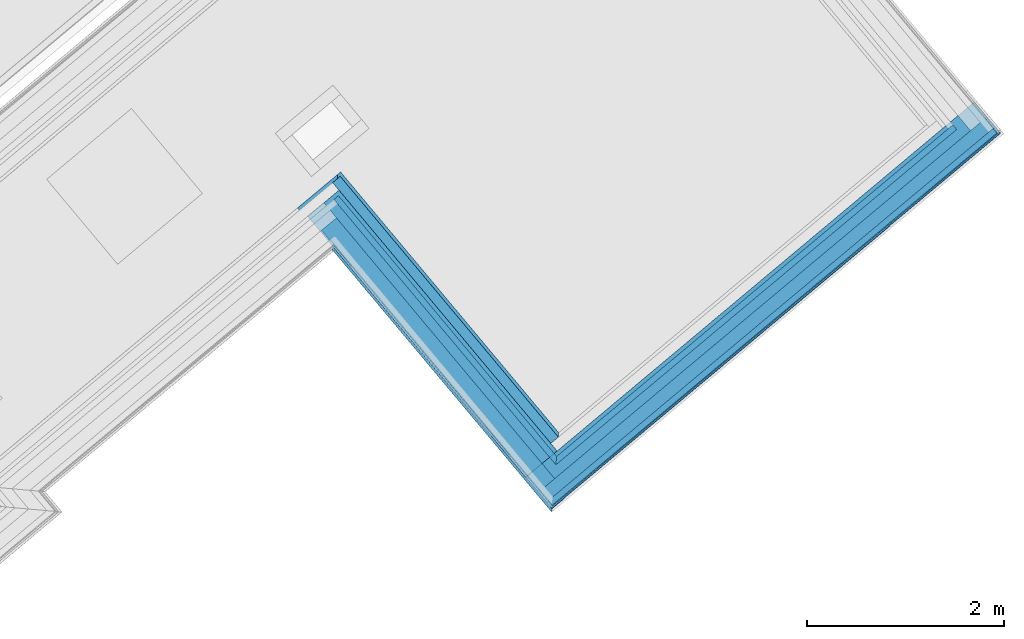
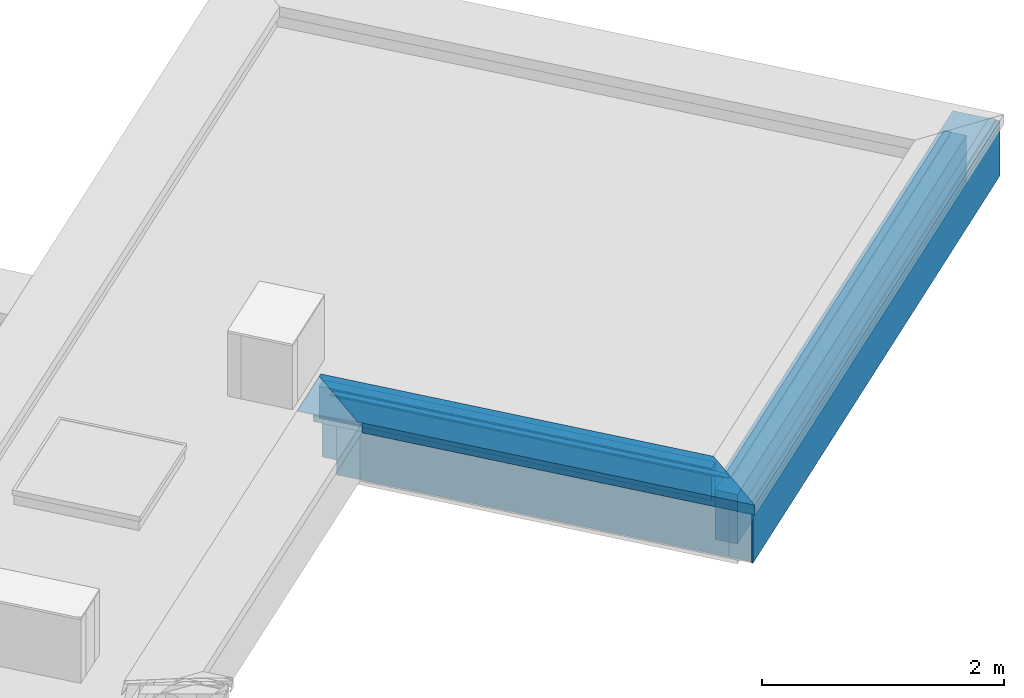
# One storey, part 8 of 15: 13 building element parts, 2 elements without a shape of their own.
"""IFC4 building model written with IfcOpenShell, lengths in metres."""

from ifc_helpers import new_model, entity, si_unit, converted_unit, derived_unit, direction, frame, origin_with_axes, place, context, subcontext, project, spatial, polygons, material, type_object, element, aggregate, save


model = new_model("IFC4")

# Units and contexts
model_context = context("Model", 3, precision=1e-05, world=origin_with_axes(), true_north=direction((0.0, 1.0)))
body_context = subcontext(model_context, "Body", "Model", "MODEL_VIEW")
ifc_project = project(units=[si_unit("LENGTHUNIT", "METRE"), si_unit("AREAUNIT", "SQUARE_METRE"), si_unit("VOLUMEUNIT", "CUBIC_METRE"), converted_unit("PLANEANGLEUNIT", "DEGREE", entity("IfcPlaneAngleMeasure", 0.0174532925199), si_unit("PLANEANGLEUNIT", "RADIAN"), dimensions=[0, 0, 0, 0, 0, 0, 0]), converted_unit("TIMEUNIT", "Year", entity("IfcTimeMeasure", 31556926.0), si_unit("TIMEUNIT", "SECOND"), dimensions=[0, 0, 1, 0, 0, 0, 0]), si_unit("MASSUNIT", "GRAM", prefix="KILO"), si_unit("THERMODYNAMICTEMPERATUREUNIT", "DEGREE_CELSIUS"), si_unit("LUMINOUSINTENSITYUNIT", "LUMEN"), si_unit("ENERGYUNIT", "JOULE", prefix="MEGA"), derived_unit("THERMALCONDUCTANCEUNIT", [(si_unit("POWERUNIT", "WATT"), 1), (si_unit("LENGTHUNIT", "METRE"), -1), (si_unit("THERMODYNAMICTEMPERATUREUNIT", "KELVIN"), -1)]), derived_unit("SPECIFICHEATCAPACITYUNIT", [(si_unit("ENERGYUNIT", "JOULE"), 1), (si_unit("MASSUNIT", "GRAM", prefix="KILO"), -1), (si_unit("THERMODYNAMICTEMPERATUREUNIT", "KELVIN"), -1)]), derived_unit("MASSDENSITYUNIT", [(si_unit("MASSUNIT", "GRAM", prefix="KILO"), 1), (si_unit("VOLUMEUNIT", "CUBIC_METRE"), -1)])], contexts=[model_context])

# Site, building, storey
site_placement = place(None, frame((-0.00153261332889, -0.00661245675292, 0.0), z_axis=(0.0, 0.0, 1.0), x_axis=(1.0, 0.0, 0.0)))
site = spatial("IfcSite", under=ifc_project, at=site_placement, Name="Site", CompositionType="ELEMENT")
building_placement = place(site_placement, origin_with_axes())
building = spatial("IfcBuilding", under=site, at=building_placement, Name="Building", CompositionType="ELEMENT")
storey_placement = place(building_placement, frame((0.0, 0.0, 11.84), z_axis=(0.0, 0.0, 1.0), x_axis=(1.0, 0.0, 0.0)))
storey = spatial("IfcBuildingStorey", under=building, at=storey_placement, Name="DA", CompositionType="ELEMENT", Elevation=11.84)

# Wall, building element parts
wall_type = type_object("IfcWallType", Name="Individuelles Profil 574 x 610", PredefinedType="NOTDEFINED")
wall_1_placement = place(storey_placement, frame((12.0618093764, 21.5422970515, 0.0), z_axis=(0.0, 0.0, 1.0), x_axis=(-0.766948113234, -0.641709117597, 0.0)))
wall_1 = element("IfcWall", 1, at=wall_1_placement, inside=storey, type_object=wall_type, Name="Wand-004", PredefinedType="NOTDEFINED")
ifc_material_1 = material(Name="Zementputz")
building_element_part_1_placement = place(wall_1_placement, origin_with_axes())
building_element_part_1 = element("IfcBuildingElementPart", 2, at=building_element_part_1_placement, material=ifc_material_1, Name="Zementputz", PredefinedType="NOTDEFINED", context=body_context, shape_type="Tessellation", body=[
    polygons([(-0.214859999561, 0.214999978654, 0.0), (-0.214859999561, 0.214999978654, 0.50000001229), (5.72873487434, 0.214999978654, 0.50000001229), (5.72873487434, 0.214999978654, 0.0), (-0.214869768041, 0.199999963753, 0.0), (-0.214869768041, 0.199999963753, 0.50000001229), (5.72873487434, 0.199999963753, 0.50000001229), (5.72873487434, 0.199999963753, 0.0)], [[[1, 2, 3, 4]], [[2, 1, 5, 6]], [[2, 6, 7, 3]], [[4, 3, 7, 8]], [[5, 1, 4, 8]], [[6, 5, 8, 7]]], closed=True),
])
ifc_material_2 = material(Name="Vollholz")
building_element_part_2_placement = place(wall_1_placement, origin_with_axes())
building_element_part_2 = element("IfcBuildingElementPart", 3, at=building_element_part_2_placement, material=ifc_material_2, Name="Vollholz", PredefinedType="NOTDEFINED", context=body_context, shape_type="Tessellation", body=[
    polygons([(-0.189911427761, 0.130124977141, 0.584015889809), (-0.189872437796, 0.189996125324, 0.584015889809), (-0.189915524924, 0.190039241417, 0.575979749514), (-0.189954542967, 0.130124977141, 0.575979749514), (-0.18986147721, 0.189984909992, 0.586106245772), (5.70371980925, 0.189984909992, 0.586106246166), (5.7037310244, 0.189996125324, 0.584015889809), (5.7037741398, 0.190039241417, 0.575979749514), (5.70378540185, 0.190050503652, 0.573880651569), (5.7038172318, 0.190082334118, 0.567947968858), (5.70385987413, 0.190124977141, 0.560000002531), (-0.190001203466, 0.190124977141, 0.560000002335), (-0.189958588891, 0.190082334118, 0.567947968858), (-0.189926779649, 0.190050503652, 0.573880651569), (-0.189965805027, 0.130124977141, 0.573880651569), (-0.189997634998, 0.130124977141, 0.567947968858), (-0.190040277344, 0.130124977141, 0.560000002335), (5.70385987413, 0.130124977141, 0.560000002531), (5.7038172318, 0.130124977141, 0.567947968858), (5.70378540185, 0.130124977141, 0.573880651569), (5.7037741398, 0.130124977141, 0.575979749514), (5.7037310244, 0.130124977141, 0.584015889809)], [[[1, 2, 3, 4]], [[5, 2, 1]], [[2, 5, 6, 7, 8, 9, 10, 11, 12, 13, 14, 3]], [[4, 3, 14, 15]], [[1, 4, 15, 16, 17, 18, 19, 20, 21, 22]], [[5, 1, 22, 6]], [[7, 6, 22]], [[7, 22, 21, 8]], [[8, 21, 20, 9]], [[9, 20, 19, 10]], [[10, 19, 18, 11]], [[17, 12, 11, 18]], [[16, 13, 12, 17]], [[15, 14, 13, 16]]], closed=True),
])
ifc_material_3 = material(Name="EPS 1")
building_element_part_3_placement = place(wall_1_placement, origin_with_axes())
building_element_part_3 = element("IfcBuildingElementPart", 4, at=building_element_part_3_placement, material=ifc_material_3, Name="EPS 1", PredefinedType="NOTDEFINED", context=body_context, shape_type="Tessellation", body=[
    polygons([(-0.19986975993, 0.19999996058, 0.498822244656), (-0.19986975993, 0.19999996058, 0.5), (5.71373486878, 0.19999996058, 0.5), (5.71373486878, 0.19999996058, 0.498822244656), (5.71373486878, 0.19999996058, 0.491006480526), (5.71373486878, 0.19999996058, 0.488695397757), (5.71373486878, 0.19999996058, 0.235000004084), (5.71373486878, 0.19999996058, 0.0), (-0.19986975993, 0.19999996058, 0.0), (-0.19986975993, 0.19999996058, 0.235000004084), (-0.19986975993, 0.19999996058, 0.488695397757), (-0.19986975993, 0.19999996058, 0.491006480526), (-0.200000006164, -2.16659046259e-09, 0.5), (-0.200000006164, -2.16659046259e-09, 0.498822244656), (5.71373486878, -2.16659046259e-09, 0.5), (5.71373486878, -2.16659046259e-09, 0.498822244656), (5.71373486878, -2.16659046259e-09, 0.491006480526), (5.71373486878, -2.16659046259e-09, 0.488695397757), (5.71373486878, -2.16659046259e-09, 0.235000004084), (5.71373486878, -2.16659046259e-09, 0.0), (-0.200000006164, -2.16659046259e-09, 0.0), (-0.200000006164, -2.16659046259e-09, 0.235000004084), (-0.200000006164, -2.16659046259e-09, 0.488695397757), (-0.200000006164, -2.16659046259e-09, 0.491006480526)], [[[1, 2, 3, 4, 5, 6, 7, 8, 9, 10, 11, 12]], [[13, 2, 1, 14]], [[2, 13, 15, 3]], [[4, 3, 15, 16]], [[4, 16, 17, 5]], [[5, 17, 18, 6]], [[6, 18, 19, 7]], [[7, 19, 20, 8]], [[21, 9, 8, 20]], [[22, 10, 9, 21]], [[23, 11, 10, 22]], [[24, 12, 11, 23]], [[14, 1, 12, 24]], [[13, 14, 24, 23, 22, 21, 20, 19, 18, 17, 16, 15]]], closed=True),
])
ifc_material_4 = material(Name="Brettschichtholz")
building_element_part_4_placement = place(wall_1_placement, origin_with_axes())
building_element_part_4 = element("IfcBuildingElementPart", 5, at=building_element_part_4_placement, material=ifc_material_4, Name="Brettschichtholz", PredefinedType="NOTDEFINED", context=body_context, shape_type="Tessellation", body=[
    polygons([(-0.214860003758, 0.214999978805, 0.519224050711), (-0.214860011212, 0.214999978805, 0.559999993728), (5.72873487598, 0.214999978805, 0.559999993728), (5.72873487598, 0.214999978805, 0.519224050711), (5.72873487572, 0.214999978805, 0.51136132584), (5.72873487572, 0.214999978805, 0.509050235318), (5.72873487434, 0.214999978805, 0.50000001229), (-0.214859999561, 0.214999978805, 0.50000001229), (-0.214860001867, 0.214999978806, 0.509050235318), (-0.214860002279, 0.214999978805, 0.51136132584), (-0.214876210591, 0.190124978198, 0.559999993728), (-0.215130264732, -0.200000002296, 0.519224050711), (-0.215130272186, -0.200000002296, 0.559999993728), (-0.215104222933, -0.159999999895, 0.559999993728), (-0.215065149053, -0.0999999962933, 0.559999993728), (-0.214915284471, 0.130124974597, 0.559999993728), (5.72873487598, 0.190124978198, 0.559999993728), (5.72873487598, 0.130124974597, 0.559999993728), (5.72873487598, -0.0999999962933, 0.559999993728), (5.72873487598, -0.159999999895, 0.559999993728), (5.72873487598, -0.200000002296, 0.559999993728), (5.72873487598, -0.200000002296, 0.519224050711), (5.72873487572, -0.200000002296, 0.51136132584), (5.72873487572, -0.200000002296, 0.509050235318), (5.72873487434, -0.200000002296, 0.50000001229), (-0.215130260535, -0.200000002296, 0.50000001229), (-0.215130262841, -0.200000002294, 0.509050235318), (-0.215130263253, -0.200000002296, 0.51136132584)], [[[1, 2, 3, 4, 5, 6, 7, 8, 9, 10]], [[11, 2, 1, 12, 13, 14, 15, 16]], [[2, 11, 17, 3]], [[4, 3, 17, 18, 19, 20, 21, 22]], [[4, 22, 23, 5]], [[5, 23, 24, 6]], [[6, 24, 25, 7]], [[25, 26, 8, 7]], [[27, 9, 8, 26]], [[28, 10, 9, 27]], [[12, 1, 10, 28]], [[13, 12, 28, 27, 26, 25, 24, 23, 22, 21]], [[14, 13, 21, 20]], [[15, 14, 20, 19]], [[16, 15, 19, 18]], [[11, 16, 18, 17]]], closed=True),
])
ifc_material_5 = material(Name="Stahlbeton Wand Garage")
building_element_part_5_placement = place(wall_1_placement, origin_with_axes())
building_element_part_5 = element("IfcBuildingElementPart", 6, at=building_element_part_5_placement, material=ifc_material_5, Name="Stahlbeton Wand Garage", PredefinedType="NOTDEFINED", context=body_context, shape_type="Tessellation", body=[
    polygons([(2.16659046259e-09, 0.0, 0.498822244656), (2.16658690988e-09, 0.0, 0.5), (5.51373490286, 0.0, 0.5), (5.51373490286, 0.0, 0.498822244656), (5.51373490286, 0.0, 0.491006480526), (5.51373490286, 0.0, 0.488695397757), (5.51373490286, 0.0, 0.235000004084), (5.51373490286, 0.0, 0.0), (2.16659046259e-09, 0.0, 0.0), (2.16659046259e-09, 0.0, 0.235000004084), (2.16659046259e-09, 0.0, 0.488695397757), (2.16659046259e-09, 0.0, 0.491006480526), (-0.000130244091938, -0.2, 0.5), (-0.000130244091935, -0.2, 0.498822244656), (5.51373490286, -0.2, 0.5), (5.51373490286, -0.2, 0.498822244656), (5.51373490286, -0.2, 0.491006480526), (5.51373490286, -0.2, 0.488695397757), (5.51373490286, -0.200000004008, 0.235000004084), (5.51373490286, -0.2, 0.0), (-0.000130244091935, -0.2, 0.0), (-0.000130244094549, -0.200000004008, 0.235000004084), (-0.000130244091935, -0.2, 0.488695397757), (-0.000130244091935, -0.2, 0.491006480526)], [[[1, 2, 3, 4, 5, 6, 7, 8, 9, 10, 11, 12]], [[13, 2, 1, 14]], [[2, 13, 15, 3]], [[4, 3, 15, 16]], [[4, 16, 17, 5]], [[5, 17, 18, 6]], [[6, 18, 19, 7]], [[7, 19, 20, 8]], [[21, 9, 8, 20]], [[22, 10, 9, 21]], [[23, 11, 10, 22]], [[24, 12, 11, 23]], [[14, 1, 12, 24]], [[13, 14, 24, 23, 22, 19, 18, 17, 16, 15]], [[22, 21, 20, 19]]], closed=True),
])
building_element_part_6_placement = place(wall_1_placement, origin_with_axes())
building_element_part_6 = element("IfcBuildingElementPart", 7, at=building_element_part_6_placement, material=ifc_material_2, Name="Vollholz", PredefinedType="NOTDEFINED", context=body_context, shape_type="Tessellation", body=[
    polygons([(0.0999348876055, -0.1, 0.573880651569), (0.0999348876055, -0.1, 0.575979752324), (5.41373489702, -0.1, 0.575979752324), (5.41373489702, -0.1, 0.573880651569), (5.41373489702, -0.1, 0.567947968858), (5.41373489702, -0.1, 0.560000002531), (0.0999348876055, -0.1, 0.560000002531), (0.0999348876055, -0.1, 0.567947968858), (0.0998957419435, -0.160110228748, 0.573880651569), (5.41373489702, -0.160110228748, 0.573880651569), (5.41373489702, -0.160063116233, 0.567947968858), (5.41373489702, -0.16, 0.560000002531), (0.0998958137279, -0.16, 0.560000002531), (0.0998957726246, -0.160063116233, 0.567947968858)], [[[1, 2, 3, 4, 5, 6, 7, 8]], [[9, 2, 1]], [[2, 9, 10, 3]], [[4, 3, 10]], [[4, 10, 11, 5]], [[5, 11, 12, 6]], [[13, 7, 6, 12]], [[14, 8, 7, 13]], [[9, 1, 8, 14]], [[9, 14, 13, 12, 11, 10]]], closed=True),
])
aggregate(wall_1, [building_element_part_1, building_element_part_2, building_element_part_3, building_element_part_4, building_element_part_5, building_element_part_6])

wall_2_placement = place(storey_placement, frame((5.6143951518, 20.6557540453, 0.0), z_axis=(0.0, 0.0, 1.0), x_axis=(0.641709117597, -0.766948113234, 0.0)))
wall_2 = element("IfcWall", 8, at=wall_2_placement, inside=storey, type_object=wall_type, Name="Wand-004", PredefinedType="NOTDEFINED")
ifc_material_6 = material(Name="Stahl")
building_element_part_7_placement = place(wall_2_placement, origin_with_axes())
building_element_part_7 = element("IfcBuildingElementPart", 9, at=building_element_part_7_placement, material=ifc_material_6, Name="Stahl", PredefinedType="NOTDEFINED", context=body_context, shape_type="Tessellation", body=[
    polygons([(0.23924354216, -0.241500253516, 0.510007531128), (0.240202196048, -0.240542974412, 0.509050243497), (3.69797498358, -0.240542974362, 0.509050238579), (3.69701768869, -0.241500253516, 0.510007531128), (0.237889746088, -0.241500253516, 0.511361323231), (0.237891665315, -0.24014644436, 0.511361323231), (0.237894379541, -0.238231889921, 0.51136132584), (0.231045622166, -0.23137340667, 0.518219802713), (3.68880540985, -0.23137340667, 0.518219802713), (3.69566389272, -0.238231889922, 0.511361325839), (3.69566389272, -0.241500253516, 0.511361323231), (3.69566389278, -0.24014644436, 0.511361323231), (0.23980749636, -0.241500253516, 0.559999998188), (0.239804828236, -0.241500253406, 0.519224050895), (0.239804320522, -0.241500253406, 0.51136132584), (3.69757845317, -0.241500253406, 0.51136132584), (3.69757896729, -0.241500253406, 0.519224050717), (3.69758163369, -0.241500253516, 0.559999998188), (3.69758215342, -0.241500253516, 0.567947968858), (3.69758254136, -0.241500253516, 0.573880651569), (3.69758267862, -0.241500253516, 0.575979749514), (3.69758320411, -0.241500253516, 0.584015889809), (3.6975833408, -0.241500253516, 0.586106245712), (3.69758346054, -0.241500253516, 0.587937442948), (3.69758480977, -0.241500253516, 0.608570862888), (3.69758481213, -0.241500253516, 0.608602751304), (3.66016264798, -0.241500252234, 0.608602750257), (3.69893226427, -0.241500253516, 0.610006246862), (0.241158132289, -0.241500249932, 0.610006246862), (0.202388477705, -0.241500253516, 0.608602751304), (0.239810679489, -0.241500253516, 0.608602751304), (0.239810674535, -0.241500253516, 0.608570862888), (0.239809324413, -0.241500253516, 0.587937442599), (0.239809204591, -0.241500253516, 0.586106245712), (0.239809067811, -0.241500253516, 0.584015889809), (0.239808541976, -0.241500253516, 0.575979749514), (0.239808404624, -0.241500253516, 0.573880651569), (0.239808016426, -0.241500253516, 0.567947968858), (0.23980623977, -0.240146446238, 0.51136132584), (0.231042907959, -0.233287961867, 0.518219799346), (0.231954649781, -0.23228372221, 0.519224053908), (3.68971573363, -0.23228372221, 0.519224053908), (3.68880540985, -0.233287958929, 0.518219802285), (3.69757845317, -0.240146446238, 0.51136132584), (0.239809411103, -0.240149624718, 0.559999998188), (0.239806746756, -0.240146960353, 0.519224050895), (3.69757896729, -0.240146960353, 0.519224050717), (3.69758163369, -0.240149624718, 0.559999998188), (3.69758215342, -0.240150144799, 0.567947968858), (3.69758254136, -0.240150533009, 0.573880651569), (3.69758267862, -0.240150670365, 0.575979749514), (3.69758320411, -0.240151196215, 0.584015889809), (3.6975833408, -0.240151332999, 0.586106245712), (3.69758346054, -0.240151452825, 0.587937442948), (3.69758480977, -0.240152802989, 0.608570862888), (3.69758481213, -0.240152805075, 0.608602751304), (3.66016264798, -0.240152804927, 0.608602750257), (3.66016264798, -0.202730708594, 0.608602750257), (3.65928180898, -0.201849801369, 0.608570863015), (3.12538011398, 0.332051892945, 0.589243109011), (-0.33158089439, 0.332051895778, 0.589243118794), (-0.331633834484, 0.294630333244, 0.58924311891), (0.201513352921, -0.239276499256, 0.608570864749), (0.202392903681, -0.240152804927, 0.608602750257), (0.239812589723, -0.240152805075, 0.608602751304), (0.239812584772, -0.240152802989, 0.608570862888), (0.239811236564, -0.240151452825, 0.587937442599), (0.239811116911, -0.240151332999, 0.586106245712), (0.239810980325, -0.240151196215, 0.584015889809), (0.239810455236, -0.240150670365, 0.575979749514), (0.239810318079, -0.240150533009, 0.573880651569), (0.239809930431, -0.240150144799, 0.567947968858), (3.65928180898, -0.239276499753, 0.608570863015), (3.12538011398, 0.294630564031, 0.589243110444), (3.12538011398, 0.332051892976, 0.489652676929), (-0.33158089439, 0.332051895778, 0.489652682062), (3.12538011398, 0.332051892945, 0.587937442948), (3.12538011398, 0.332051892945, 0.586106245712), (3.12538011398, 0.332051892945, 0.584015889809), (3.12538011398, 0.332051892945, 0.575979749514), (3.12538011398, 0.332051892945, 0.573880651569), (3.12538011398, 0.332051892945, 0.567947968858), (3.12538011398, 0.332051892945, 0.55999999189), (3.12538011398, 0.332051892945, 0.519224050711), (3.12538011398, 0.332051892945, 0.51136132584), (3.12538011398, 0.332051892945, 0.509050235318), (3.12538011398, 0.332051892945, 0.499999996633), (3.12538011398, 0.332051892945, 0.498822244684), (3.12538011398, 0.332051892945, 0.491006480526), (-0.331583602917, 0.330137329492, 0.489652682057), (-0.331586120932, 0.328783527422, 0.491006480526), (-0.331580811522, 0.330698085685, 0.491006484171), (-0.331580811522, 0.330698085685, 0.587937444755), (3.12538011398, 0.330698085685, 0.587937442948), (3.12633739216, 0.331094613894, 0.488695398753), (-0.330625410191, 0.331094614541, 0.488695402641), (3.12538011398, 0.330698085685, 0.586106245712), (3.12538011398, 0.330698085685, 0.584015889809), (3.12538011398, 0.330698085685, 0.575979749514), (3.12538011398, 0.330698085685, 0.573880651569), (3.12538011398, 0.330698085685, 0.567947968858), (3.12538011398, 0.330698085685, 0.55999999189), (3.12538011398, 0.330698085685, 0.519224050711), (3.12538011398, 0.330698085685, 0.51136132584), (3.12538011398, 0.330698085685, 0.509050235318), (3.12538011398, 0.330698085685, 0.499999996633), (3.12538011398, 0.330698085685, 0.498822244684), (3.12538011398, 0.330698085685, 0.491006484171), (3.12538011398, 0.32878353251, 0.491006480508), (3.12538011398, 0.330137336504, 0.489652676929), (-0.323336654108, 0.32187807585, 0.497911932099), (-0.330232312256, 0.328783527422, 0.491006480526), (3.1267339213, 0.328783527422, 0.491006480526), (3.13363936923, 0.32187807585, 0.497911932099), (-0.33022959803, 0.33069808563, 0.491006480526), (3.1267339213, 0.33069808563, 0.491006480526), (-0.322424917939, 0.322882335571, 0.498822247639), (3.13454968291, 0.322882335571, 0.498822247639)], [[[1, 2, 3, 4]], [[1, 5, 6, 7, 2]], [[2, 7, 8, 9, 10, 3]], [[11, 4, 3, 10, 12]], [[13, 14, 15, 5, 1, 4, 11, 16, 17, 18, 19, 20, 21, 22, 23, 24, 25, 26, 27, 28, 29, 30, 31, 32, 33, 34, 35, 36, 37, 38]], [[6, 5, 15, 39]], [[6, 40, 8, 7]], [[8, 41, 42, 9]], [[12, 10, 9, 43]], [[11, 12, 44, 16]], [[14, 13, 45, 46]], [[39, 15, 14, 46]], [[17, 16, 44, 47]], [[18, 17, 47, 48]], [[19, 18, 48, 49]], [[20, 19, 49, 50]], [[21, 20, 50, 51]], [[22, 21, 51, 52]], [[23, 22, 52, 53]], [[24, 23, 53, 54]], [[24, 54, 55, 25]], [[25, 55, 56, 26]], [[26, 56, 57, 27]], [[28, 27, 57, 58]], [[29, 28, 58, 59, 60, 61]], [[30, 29, 61, 62, 63, 64]], [[65, 31, 30, 64]], [[31, 65, 66, 32]], [[33, 32, 66, 67]], [[34, 33, 67, 68]], [[35, 34, 68, 69]], [[36, 35, 69, 70]], [[37, 36, 70, 71]], [[38, 37, 71, 72]], [[13, 38, 72, 45]], [[6, 39, 12, 43, 42, 41, 40]], [[40, 41, 8]], [[42, 43, 9]], [[39, 46, 45, 72, 71, 70, 69, 68, 67, 66, 65, 57, 56, 55, 54, 53, 52, 51, 50, 49, 48, 47, 44, 12]], [[57, 73, 59, 58]], [[73, 74, 60, 59]], [[75, 76, 61, 60, 77, 78, 79, 80, 81, 82, 83, 84, 85, 86, 87, 88, 89]], [[90, 91, 92, 93, 62, 61, 76]], [[63, 62, 93, 94, 74, 73]], [[65, 64, 63, 73, 57]], [[74, 94, 77, 60]], [[95, 96, 76, 75]], [[94, 97, 78, 77]], [[97, 98, 79, 78]], [[98, 99, 80, 79]], [[99, 100, 81, 80]], [[100, 101, 82, 81]], [[101, 102, 83, 82]], [[102, 103, 84, 83]], [[103, 104, 85, 84]], [[104, 105, 86, 85]], [[105, 106, 87, 86]], [[106, 107, 88, 87]], [[107, 108, 89, 88]], [[109, 110, 75, 89, 108]], [[111, 112, 91, 90, 96, 95, 110, 109, 113, 114]], [[91, 112, 115, 92]], [[115, 108, 107, 106, 105, 104, 103, 102, 101, 100, 99, 98, 97, 94, 93, 92]], [[96, 90, 76]], [[110, 95, 75]], [[113, 109, 108, 116]], [[112, 111, 117, 115]], [[113, 116, 118, 114]], [[117, 111, 114, 118]], [[108, 115, 117, 118, 116]]], closed=True),
])
ifc_material_7 = material(Name="Holzwerkstoff")
building_element_part_8_placement = place(wall_2_placement, origin_with_axes())
building_element_part_8 = element("IfcBuildingElementPart", 10, at=building_element_part_8_placement, material=ifc_material_7, Name="Holzwerkstoff", PredefinedType="NOTDEFINED", context=body_context, shape_type="Tessellation", body=[
    polygons([(-0.331038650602, -0.239997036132, 0.587937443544), (0.238937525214, -0.239276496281, 0.608570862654), (-0.330229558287, 0.330698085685, 0.587937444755), (-0.331035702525, -0.239999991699, 0.587852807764), (3.12673687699, -0.239999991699, 0.587852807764), (3.12673392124, -0.23999703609, 0.587937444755), (3.69670840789, -0.239276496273, 0.608570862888), (3.12673392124, 0.330698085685, 0.587937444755), (-0.330903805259, -0.189984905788, 0.586106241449), (-0.330165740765, 0.330634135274, 0.586106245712), (3.12679787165, -0.189985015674, 0.586106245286), (3.12679787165, 0.330634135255, 0.586106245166), (-0.329532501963, 0.329999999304, 0.567947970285), (-0.329739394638, 0.330207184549, 0.573880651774), (-0.329812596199, 0.330280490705, 0.575979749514), (-0.330092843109, 0.330561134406, 0.584015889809), (3.12687087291, 0.330561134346, 0.584015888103), (3.12715151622, 0.330280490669, 0.575979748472), (3.12722482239, 0.330207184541, 0.573880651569), (3.12743205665, 0.329999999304, 0.567947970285), (-0.330745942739, -0.130124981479, 0.584015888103), (3.12687087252, -0.13012506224, 0.584015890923), (-0.329980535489, 0.160110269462, 0.573880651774), (-0.330139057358, 0.0999999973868, 0.575979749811), (3.12715151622, 0.100000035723, 0.575979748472), (3.12722482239, 0.160110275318, 0.573880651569)], [[[1, 2, 3]], [[1, 4, 5, 6, 7, 2]], [[3, 2, 7, 8]], [[9, 4, 1, 3, 10]], [[4, 9, 11, 5]], [[5, 11, 12, 8, 6]], [[7, 6, 8]], [[13, 14, 15, 16, 10, 3, 8, 12, 17, 18, 19, 20]], [[21, 9, 10, 16]], [[9, 21, 22, 11]], [[11, 22, 17, 12]], [[13, 23, 14]], [[14, 23, 24, 15]], [[24, 21, 16, 15]], [[25, 18, 17, 22]], [[25, 26, 19, 18]], [[26, 20, 19]], [[23, 13, 20, 26]], [[21, 24, 25, 22]], [[24, 23, 26, 25]]], closed=True),
])
building_element_part_9_placement = place(wall_2_placement, origin_with_axes())
building_element_part_9 = element("IfcBuildingElementPart", 11, at=building_element_part_9_placement, material=ifc_material_3, Name="EPS 1", PredefinedType="NOTDEFINED", context=body_context, shape_type="Tessellation", body=[
    polygons([(-0.299716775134, 0.200000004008, 0.23500000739), (-0.299716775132, 0.200000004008, 0.488695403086), (-0.299575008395, 0.30000000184, 0.488695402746), (-0.299575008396, 0.30000000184, 0.23500000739), (3.15743200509, 0.200000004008, 0.235000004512), (3.15743200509, 0.200000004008, 0.488695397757), (3.15743200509, 0.200000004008, 0.491006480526), (3.15743200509, 0.200000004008, 0.498822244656), (3.15743200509, 0.200000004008, 0.499999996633), (3.15743200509, 0.200000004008, 0.509050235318), (3.15743200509, 0.200000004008, 0.51136132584), (3.15743200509, 0.200000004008, 0.519224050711), (3.15743200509, 0.200000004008, 0.560000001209), (-0.299716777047, 0.200000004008, 0.560000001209), (-0.299716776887, 0.200000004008, 0.519224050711), (-0.299716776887, 0.200000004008, 0.51136132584), (-0.299716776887, 0.200000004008, 0.509050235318), (-0.299716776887, 0.200000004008, 0.499999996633), (-0.299716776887, 0.200000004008, 0.498822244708), (-0.299716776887, 0.200000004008, 0.491006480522), (-0.299575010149, 0.30000000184, 0.491006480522), (-0.299575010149, 0.30000000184, 0.498822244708), (-0.299575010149, 0.30000000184, 0.499999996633), (-0.299575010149, 0.30000000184, 0.509050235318), (-0.299575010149, 0.30000000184, 0.51136132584), (-0.299575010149, 0.30000000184, 0.519224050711), (-0.299575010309, 0.30000000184, 0.560000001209), (3.15743200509, 0.30000000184, 0.560000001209), (3.15743200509, 0.30000000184, 0.519224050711), (3.15743200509, 0.30000000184, 0.51136132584), (3.15743200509, 0.30000000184, 0.509050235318), (3.15743200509, 0.30000000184, 0.499999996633), (3.15743200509, 0.30000000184, 0.498822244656), (3.15743200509, 0.30000000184, 0.491006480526), (3.15743200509, 0.30000000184, 0.488695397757), (3.15743200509, 0.30000000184, 0.235000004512)], [[[1, 2, 3, 4]], [[2, 1, 5, 6, 7, 8, 9, 10, 11, 12, 13, 14, 15, 16, 17, 18, 19, 20]], [[3, 2, 20, 21]], [[4, 3, 21, 22, 23, 24, 25, 26, 27, 28, 29, 30, 31, 32, 33, 34, 35, 36]], [[1, 4, 36, 5]], [[6, 5, 36, 35]], [[7, 6, 35, 34]], [[8, 7, 34, 33]], [[9, 8, 33, 32]], [[10, 9, 32, 31]], [[11, 10, 31, 30]], [[12, 11, 30, 29]], [[12, 29, 28, 13]], [[27, 14, 13, 28]], [[15, 14, 27, 26]], [[16, 15, 26, 25]], [[17, 16, 25, 24]], [[18, 17, 24, 23]], [[19, 18, 23, 22]], [[20, 19, 22, 21]]], closed=True),
])
building_element_part_10_placement = place(wall_2_placement, origin_with_axes())
building_element_part_10 = element("IfcBuildingElementPart", 12, at=building_element_part_10_placement, material=ifc_material_2, Name="Vollholz", PredefinedType="NOTDEFINED", context=body_context, shape_type="Tessellation", body=[
    polygons([(-0.159968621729, 0.100000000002, 0.573880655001), (-0.159883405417, 0.16011022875, 0.573880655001), (-0.159836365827, 0.160063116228, 0.567947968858), (-0.159921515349, 0.100000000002, 0.567947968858), (-0.0998583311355, 0.100000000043, 0.575979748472), (3.29743200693, 0.16, 0.560000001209), (-0.159773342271, 0.16, 0.560000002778), (3.29732177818, 0.160110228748, 0.573880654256), (3.2973688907, 0.160063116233, 0.567947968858), (-0.159858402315, 0.1, 0.560000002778), (3.29743200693, 0.1, 0.560000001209), (3.2973688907, 0.1, 0.567947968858), (3.29732177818, 0.1, 0.573880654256), (3.35743200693, 0.1, 0.575979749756)], [[[1, 2, 3, 4]], [[5, 2, 1]], [[6, 7, 3, 2, 8, 9]], [[4, 3, 7, 10]], [[5, 1, 4, 10, 11, 12, 13, 14]], [[2, 5, 14, 8]], [[11, 10, 7, 6]], [[13, 12, 9, 8]], [[9, 12, 11, 6]], [[13, 8, 14]]], closed=True),
])
building_element_part_11_placement = place(wall_2_placement, origin_with_axes())
building_element_part_11 = element("IfcBuildingElementPart", 13, at=building_element_part_11_placement, material=ifc_material_5, Name="Stahlbeton Wand Garage", PredefinedType="NOTDEFINED", context=body_context, shape_type="Tessellation", body=[
    polygons([(-0.199998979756, 0.0, 0.0), (-0.200000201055, 4.00811117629e-09, 0.23500000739), (-0.199716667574, 0.200000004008, 0.23500000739), (-0.199715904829, 0.2, 0.0), (3.25743200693, 9.49615497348e-10, 0.0), (3.25743200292, 8.69654570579e-10, 0.235000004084), (3.25743200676, 7.83330733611e-10, 0.488695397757), (3.25743200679, 7.82545583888e-10, 0.491006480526), (3.25743200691, 7.79888154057e-10, 0.498822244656), (3.25743200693, 7.79483144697e-10, 0.5), (-0.20000020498, 4.45667680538e-09, 0.499999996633), (-0.20000020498, 4.45707826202e-09, 0.498822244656), (-0.20000020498, 4.45973924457e-09, 0.491006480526), (-0.20000020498, 4.46052439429e-09, 0.488695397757), (-0.199716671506, 0.199999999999, 0.488695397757), (3.25743200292, 0.200000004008, 0.235000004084), (3.25743200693, 0.2, 0.0), (3.25743200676, 0.200000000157, 0.488695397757), (3.25743200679, 0.200000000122, 0.491006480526), (3.25743200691, 0.200000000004, 0.498822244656), (3.25743200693, 0.199999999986, 0.5), (-0.199716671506, 0.199999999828, 0.499999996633), (-0.199716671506, 0.199999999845, 0.498822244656), (-0.199716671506, 0.199999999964, 0.491006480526)], [[[1, 2, 3, 4]], [[2, 1, 5, 6, 7, 8, 9, 10, 11, 12, 13, 14]], [[2, 14, 15, 3]], [[16, 17, 4, 3]], [[5, 1, 4, 17]], [[6, 5, 17, 16]], [[7, 6, 16, 18]], [[8, 7, 18, 19]], [[9, 8, 19, 20]], [[10, 9, 20, 21]], [[22, 11, 10, 21]], [[12, 11, 22, 23]], [[13, 12, 23, 24]], [[14, 13, 24, 15]], [[15, 24, 23, 22, 21, 20, 19, 18, 16, 3]]], closed=True),
])
building_element_part_12_placement = place(wall_2_placement, origin_with_axes())
building_element_part_12 = element("IfcBuildingElementPart", 14, at=building_element_part_12_placement, material=ifc_material_4, Name="Brettschichtholz", PredefinedType="NOTDEFINED", context=body_context, shape_type="Tessellation", body=[
    polygons([(-0.199716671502, 0.200000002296, 0.519224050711), (-0.199716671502, 0.200000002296, 0.560000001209), (3.25743200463, 0.200000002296, 0.560000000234), (3.25743200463, 0.200000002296, 0.519224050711), (3.25743200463, 0.200000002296, 0.51136132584), (3.25743200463, 0.200000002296, 0.509050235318), (3.25743200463, 0.200000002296, 0.499999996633), (-0.199716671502, 0.200000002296, 0.499999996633), (-0.199716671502, 0.200000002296, 0.509050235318), (-0.199716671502, 0.200000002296, 0.51136132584), (-0.199773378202, 0.159999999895, 0.560000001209), (-0.200305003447, -0.214999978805, 0.519224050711), (-0.200305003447, -0.214999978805, 0.560000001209), (-0.20026973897, -0.190124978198, 0.560000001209), (-0.200184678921, -0.130124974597, 0.560000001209), (-0.199858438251, 0.0999999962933, 0.560000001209), (3.25743200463, 0.159999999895, 0.560000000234), (3.25743200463, -0.190124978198, 0.560000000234), (3.25743200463, -0.214999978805, 0.560000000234), (3.25743200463, -0.214999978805, 0.519224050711), (3.25743200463, 0.0999999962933, 0.560000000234), (3.25743200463, -0.130124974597, 0.560000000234), (3.25743200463, -0.214999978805, 0.51136132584), (3.25743200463, -0.214999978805, 0.509050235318), (3.25743200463, -0.214999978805, 0.499999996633), (-0.200305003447, -0.214999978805, 0.499999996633), (-0.200305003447, -0.214999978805, 0.509050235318), (-0.200305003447, -0.214999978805, 0.51136132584)], [[[1, 2, 3, 4, 5, 6, 7, 8, 9, 10]], [[11, 2, 1, 12, 13, 14, 15, 16]], [[2, 11, 17, 3]], [[18, 19, 20, 4, 3, 17, 21, 22]], [[20, 23, 5, 4]], [[6, 5, 23, 24]], [[7, 6, 24, 25]], [[26, 8, 7, 25]], [[8, 26, 27, 9]], [[9, 27, 28, 10]], [[12, 1, 10, 28]], [[13, 12, 28, 27, 26, 25, 24, 23, 20, 19]], [[14, 13, 19, 18]], [[15, 14, 18, 22]], [[16, 15, 22, 21]], [[11, 16, 21, 17]]], closed=True),
])
building_element_part_13_placement = place(wall_2_placement, origin_with_axes())
building_element_part_13 = element("IfcBuildingElementPart", 15, at=building_element_part_13_placement, material=ifc_material_3, Name="EPS 1", PredefinedType="NOTDEFINED", context=body_context, shape_type="Tessellation", body=[
    polygons([(0.0, 2.16659046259e-09, 0.498822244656), (0.0, 2.16659401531e-09, 0.5), (3.45743200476, 2.16658690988e-09, 0.5), (3.45743200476, 2.16658690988e-09, 0.498822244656), (3.45743200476, 2.16658690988e-09, 0.491006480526), (3.45743200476, 2.16658690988e-09, 0.488695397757), (3.45743200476, 2.16658690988e-09, 0.235000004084), (3.45743200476, 2.16658690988e-09, 0.0), (0.0, 2.16659046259e-09, 0.0), (0.0, 2.16659046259e-09, 0.235000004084), (0.0, 2.16659046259e-09, 0.488695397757), (0.0, 2.16659046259e-09, 0.491006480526), (-0.000283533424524, -0.19999996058, 0.5), (-0.000283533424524, -0.19999996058, 0.498822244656), (3.45743200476, -0.19999996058, 0.5), (3.45743200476, -0.19999996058, 0.498822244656), (3.45743200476, -0.19999996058, 0.491006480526), (3.45743200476, -0.19999996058, 0.488695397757), (3.45743200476, -0.19999996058, 0.235000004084), (3.45743200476, -0.19999996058, 0.0), (-0.000283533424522, -0.19999996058, 0.0), (-0.000283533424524, -0.19999996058, 0.235000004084), (-0.000283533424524, -0.19999996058, 0.488695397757), (-0.000283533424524, -0.19999996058, 0.491006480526)], [[[1, 2, 3, 4, 5, 6, 7, 8, 9, 10, 11, 12]], [[13, 2, 1, 14]], [[2, 13, 15, 3]], [[4, 3, 15, 16]], [[4, 16, 17, 5]], [[5, 17, 18, 6]], [[19, 7, 6, 18]], [[20, 8, 7, 19]], [[21, 9, 8, 20]], [[22, 10, 9, 21]], [[10, 22, 23, 11]], [[11, 23, 24, 12]], [[14, 1, 12, 24]], [[13, 14, 24, 23, 22, 21, 20, 19, 18, 17, 16, 15]]], closed=True),
])
aggregate(wall_2, [building_element_part_7, building_element_part_8, building_element_part_9, building_element_part_10, building_element_part_11, building_element_part_12, building_element_part_13])

save(model, "model.ifc")
